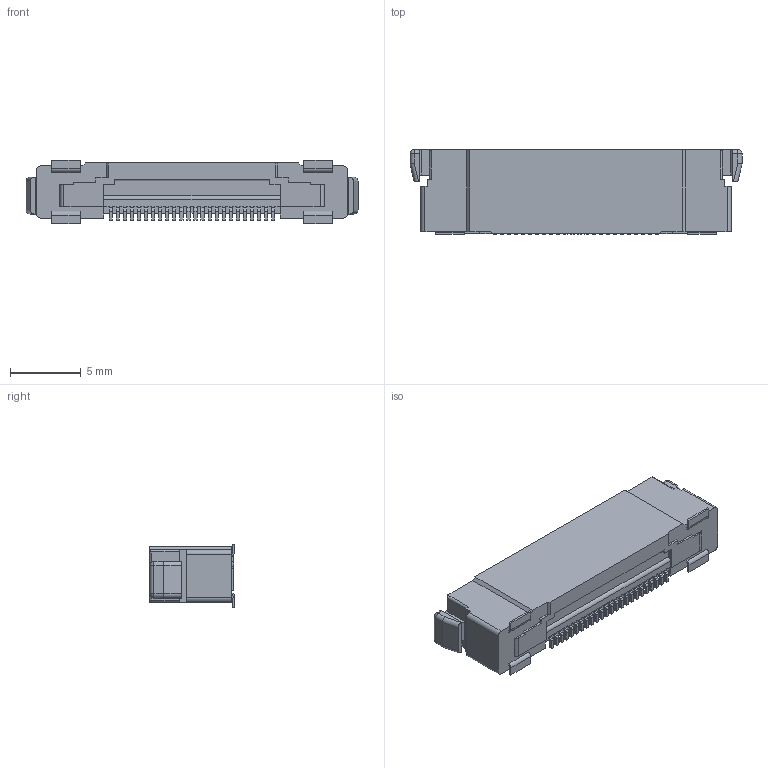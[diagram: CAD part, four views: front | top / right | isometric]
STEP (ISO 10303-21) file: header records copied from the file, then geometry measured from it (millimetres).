
FILE_DESCRIPTION (( 'STEP AP203' ), '1' );
FILE_NAME ('20539-024ExxxC ASSY STEP R6 ALL.STEP', '2014-11-26T09:23:10', ( 'kaihatsu-3dcad-4' ), ( '' ), 'SwSTEP 2.0', 'SolidWorks 2011', '' );
FILE_SCHEMA (( 'CONFIG_CONTROL_DESIGN' ));
Length unit declared in the file: millimetre
Products named in the file (1): 20539-024ExxxC ASSY STEP R6 ALL
Bounding box: 23.5 x 6 x 4.5 mm (x, y, z)
Volume: 454.9 mm3; surface area: 549 mm2
Topology: 1 solids, 1 shells, 435 faces, 1255 edges, 824 vertices
Faces by surface type: plane 298, cylinder 133, bspline 4
Entity records: 14300 total; most frequent: CARTESIAN_POINT 2631, ORIENTED_EDGE 2502, DIRECTION 2353, EDGE_CURVE 1251, LINE 989, VECTOR 989, VERTEX_POINT 824, AXIS2_PLACEMENT_3D 682
